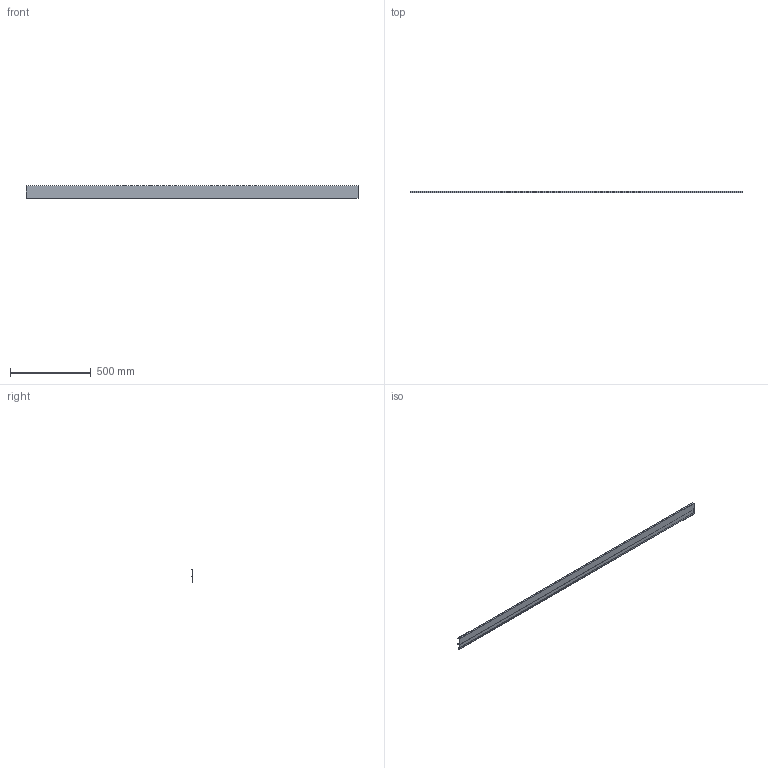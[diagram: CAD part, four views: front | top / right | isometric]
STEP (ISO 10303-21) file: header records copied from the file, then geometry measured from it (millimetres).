
FILE_DESCRIPTION(('STEP AP242'),'1');
FILE_NAME('OPO_65.083.31.stp','2026-03-17T13:41:46',(' '),(' '),'Spatial InterOp 3D',' ',' ');
FILE_SCHEMA(('AP242_MANAGED_MODEL_BASED_3D_ENGINEERING_MIM_LF {1 0 10303 442 1 1 4}'));
Length unit declared in the file: millimetre
Products named in the file (1): 1
Bounding box: 2050 x 11.5 x 79.5 mm (x, y, z)
Volume: 229600 mm3; surface area: 463524 mm2
Topology: 1 solids, 1 shells, 68 faces, 184 edges, 122 vertices
Faces by surface type: plane 48, cylinder 20
Entity records: 2692 total; most frequent: CARTESIAN_POINT 375, ORIENTED_EDGE 368, DIRECTION 362, EDGE_CURVE 184, LINE 144, VECTOR 144, VERTEX_POINT 122, AXIS2_PLACEMENT_3D 109
